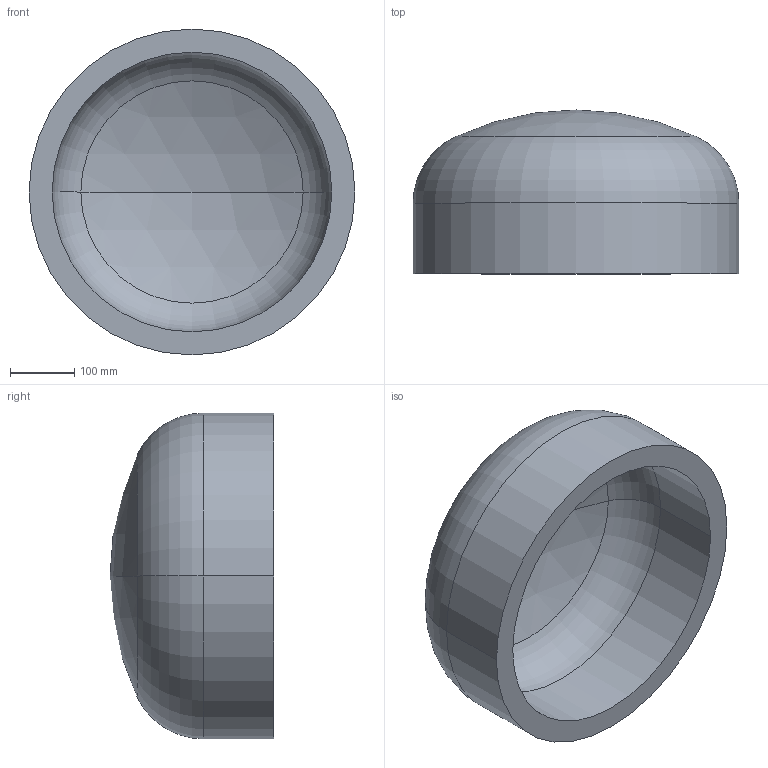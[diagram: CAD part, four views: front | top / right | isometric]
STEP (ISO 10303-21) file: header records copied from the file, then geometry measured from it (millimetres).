
FILE_DESCRIPTION (( 'STEP AP203' ), '1' );
FILE_NAME ('DIN 28013 Korbbogenform_-_Boden DIN 28013 - 508 x 110 - I - s=36.step', '2016-07-01T07:54:21', ( '' ), ( '' ), 'SwSTEP 2.0', 'SolidWorks 2013', '' );
FILE_SCHEMA (( 'CONFIG_CONTROL_DESIGN' ));
Length unit declared in the file: millimetre
Products named in the file (1): DIN 28013 Korbbogenform_-_Boden DIN 28013 - 508 x 110 - I - s=36
Bounding box: 508 x 255.38 x 508 mm (x, y, z)
Volume: 15106584 mm3; surface area: 895350.8 mm2
Topology: 1 solids, 1 shells, 13 faces, 24 edges, 14 vertices
Faces by surface type: torus 4, cylinder 4, sphere 4, plane 1
Entity records: 407 total; most frequent: DIRECTION 72, CARTESIAN_POINT 52, ORIENTED_EDGE 48, AXIS2_PLACEMENT_3D 34, EDGE_CURVE 24, CIRCLE 20, EDGE_LOOP 14, VERTEX_POINT 14
